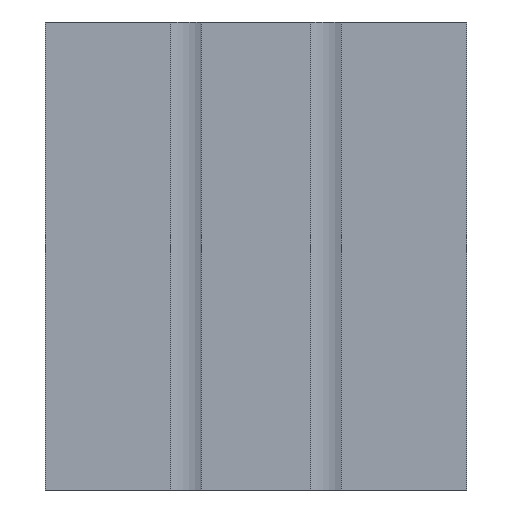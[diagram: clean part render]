
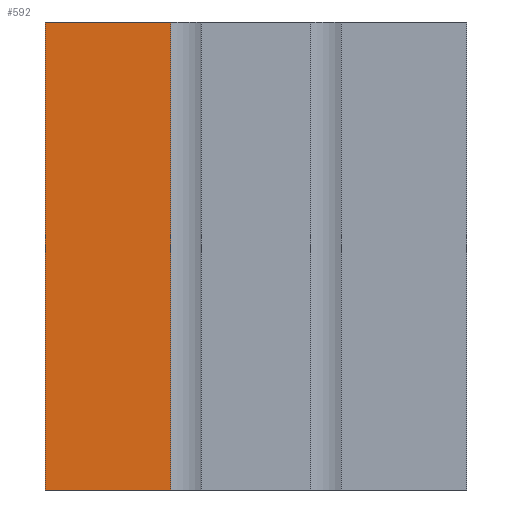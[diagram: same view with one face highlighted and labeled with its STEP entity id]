
A CAD part, front view. The second image highlights one B-rep face of the part: STEP entity #592.
In plain terms, the highlighted planar face has unit normal (0, -1, 0).
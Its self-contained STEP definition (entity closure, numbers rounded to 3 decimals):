
#163 = PLANE ( 'NONE',  #1207 ) ;
#177 = DIRECTION ( 'NONE',  ( 0., 0., -1. ) ) ;
#326 = DIRECTION ( 'NONE',  ( -1., 0., 0. ) ) ;
#340 = CARTESIAN_POINT ( 'NONE',  ( -17.193, -7.208, 0. ) ) ;
#349 = FACE_OUTER_BOUND ( 'NONE', #1684, .T. ) ;
#393 = EDGE_CURVE ( 'NONE', #933, #405, #1728, .T. ) ;
#405 = VERTEX_POINT ( 'NONE', #593 ) ;
#425 = CARTESIAN_POINT ( 'NONE',  ( -43.943, -7.208, -50. ) ) ;
#479 = LINE ( 'NONE', #1124, #1093 ) ;
#512 = ORIENTED_EDGE ( 'NONE', *, *, #393, .T. ) ;
#592 = ADVANCED_FACE ( 'NONE', ( #349 ), #163, .T. ) ;
#593 = CARTESIAN_POINT ( 'NONE',  ( -17.193, -7.208, -50. ) ) ;
#656 = VERTEX_POINT ( 'NONE', #1160 ) ;
#703 = VECTOR ( 'NONE', #1812, 1000. ) ;
#733 = DIRECTION ( 'NONE',  ( 0., 0., 1. ) ) ;
#836 = CARTESIAN_POINT ( 'NONE',  ( -17.193, -7.208, 50. ) ) ;
#871 = ORIENTED_EDGE ( 'NONE', *, *, #1517, .F. ) ;
#889 = LINE ( 'NONE', #425, #1497 ) ;
#908 = DIRECTION ( 'NONE',  ( 1., 0., 0. ) ) ;
#933 = VERTEX_POINT ( 'NONE', #1767 ) ;
#945 = EDGE_CURVE ( 'NONE', #1777, #656, #479, .T. ) ;
#1085 = CARTESIAN_POINT ( 'NONE',  ( -43.943, -7.208, -50. ) ) ;
#1093 = VECTOR ( 'NONE', #326, 1000. ) ;
#1124 = CARTESIAN_POINT ( 'NONE',  ( -17.193, -7.208, 50. ) ) ;
#1160 = CARTESIAN_POINT ( 'NONE',  ( -43.943, -7.208, 50. ) ) ;
#1171 = CARTESIAN_POINT ( 'NONE',  ( -17.193, -7.208, -50. ) ) ;
#1207 = AXIS2_PLACEMENT_3D ( 'NONE', #340, #1312, #177 ) ;
#1312 = DIRECTION ( 'NONE',  ( 0., -1., 0. ) ) ;
#1497 = VECTOR ( 'NONE', #733, 1000. ) ;
#1508 = ORIENTED_EDGE ( 'NONE', *, *, #1821, .T. ) ;
#1517 = EDGE_CURVE ( 'NONE', #933, #656, #889, .T. ) ;
#1649 = VECTOR ( 'NONE', #908, 1000. ) ;
#1684 = EDGE_LOOP ( 'NONE', ( #1825, #871, #512, #1508 ) ) ;
#1728 = LINE ( 'NONE', #1085, #1649 ) ;
#1767 = CARTESIAN_POINT ( 'NONE',  ( -43.943, -7.208, -50. ) ) ;
#1777 = VERTEX_POINT ( 'NONE', #836 ) ;
#1812 = DIRECTION ( 'NONE',  ( 0., 0., 1. ) ) ;
#1821 = EDGE_CURVE ( 'NONE', #405, #1777, #1941, .T. ) ;
#1825 = ORIENTED_EDGE ( 'NONE', *, *, #945, .T. ) ;
#1941 = LINE ( 'NONE', #1171, #703 ) ;
